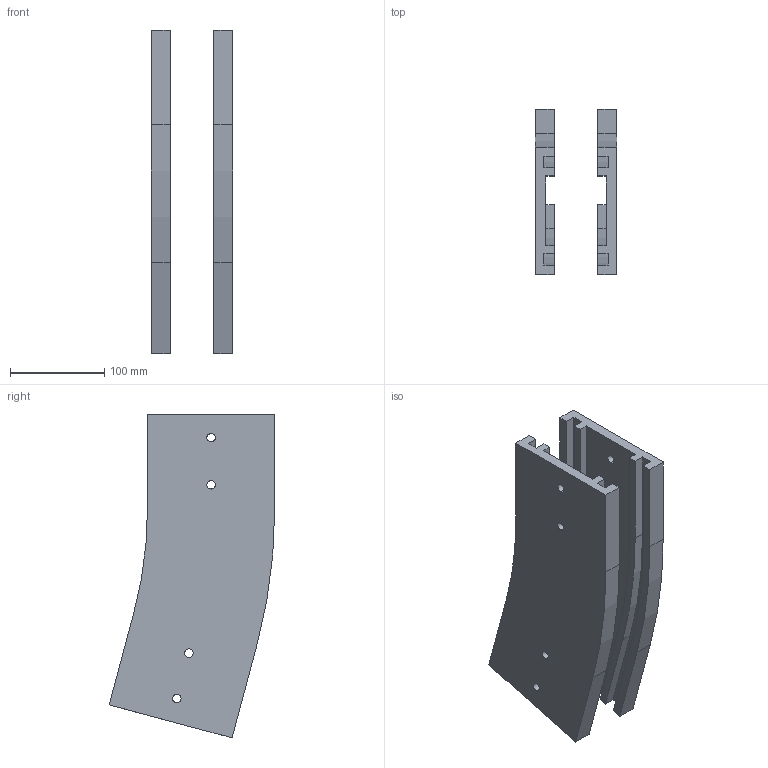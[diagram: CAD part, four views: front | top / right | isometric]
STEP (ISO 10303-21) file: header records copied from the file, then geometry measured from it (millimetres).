
FILE_DESCRIPTION (( 'STEP AP203' ), '1' );
FILE_NAME ('R2CV500-15.STEP', '2008-12-02T09:19:45', ( 'faber' ), ( '' ), 'SwSTEP 2.0', 'SolidWorks 2008', '' );
FILE_SCHEMA (( 'CONFIG_CONTROL_DESIGN' ));
Length unit declared in the file: millimetre
Products named in the file (1): R2CV500-15
Bounding box: 86 x 175.62 x 343.47 mm (x, y, z)
Volume: 1165786.6 mm3; surface area: 254739.6 mm2
Topology: 2 solids, 2 shells, 84 faces, 240 edges, 160 vertices
Faces by surface type: plane 52, cylinder 32
Entity records: 2855 total; most frequent: CARTESIAN_POINT 485, ORIENTED_EDGE 480, DIRECTION 474, EDGE_CURVE 240, VECTOR 176, LINE 176, VERTEX_POINT 160, AXIS2_PLACEMENT_3D 149
